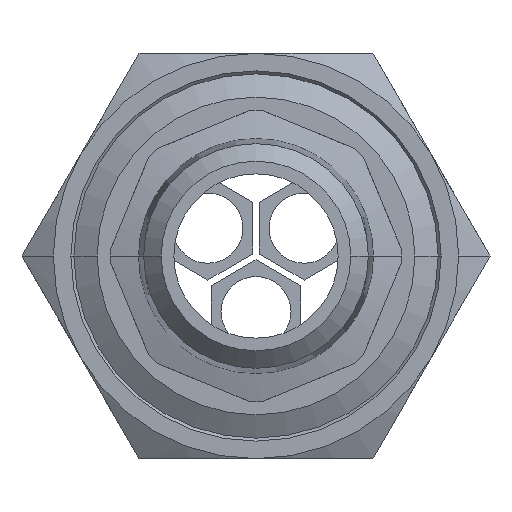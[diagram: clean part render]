
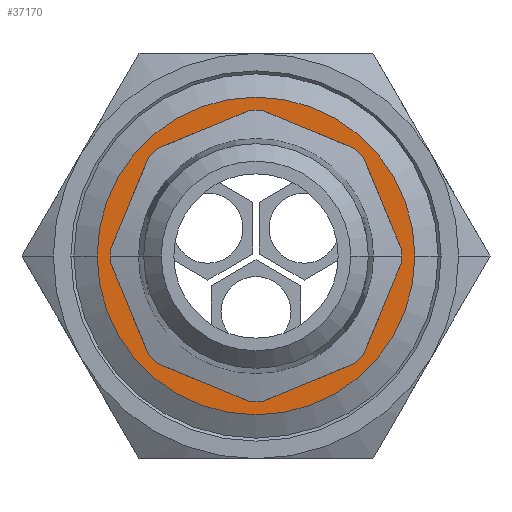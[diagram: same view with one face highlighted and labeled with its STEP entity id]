
A CAD part, front view. The second image highlights one B-rep face of the part: STEP entity #37170.
In plain terms, the highlighted planar face has unit normal (0, -1, 0).
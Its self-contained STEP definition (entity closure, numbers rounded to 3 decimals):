
#35380=CARTESIAN_POINT('',(-333.791,23.435,
0.));
#35390=VERTEX_POINT('',#35380);
#35470=CARTESIAN_POINT('',(-304.791,23.435,0.));
#35480=VERTEX_POINT('',#35470);
#35510=CARTESIAN_POINT('',(-319.291,23.435,0.));
#35520=DIRECTION('',(0.,1.,0.));
#35530=DIRECTION('',(1.,0.,0.));
#35540=AXIS2_PLACEMENT_3D('',#35510,#35520,#35530);
#35550=CIRCLE('',#35540,14.5);
#35560=EDGE_CURVE('',#35390,#35480,#35550,.T.);
#35610=CARTESIAN_POINT('',(-325.388,23.435,
4.782));
#35620=DIRECTION('',(0.,-1.,0.));
#35630=DIRECTION('',(1.,0.,0.));
#35640=AXIS2_PLACEMENT_3D('',#35610,#35620,#35630);
#35650=PLANE('',#35640);
#35660=EDGE_CURVE('',#35480,#35390,#35550,.T.);
#35670=ORIENTED_EDGE('',*,*,#35660,.F.);
#35680=ORIENTED_EDGE('',*,*,#35560,.F.);
#35690=EDGE_LOOP('',(#35680,#35670));
#35700=FACE_OUTER_BOUND('',#35690,.T.);
#35710=CARTESIAN_POINT('',(-319.877,23.435,
13.287));
#35720=DIRECTION('',(-0.924,0.,-0.383));
#35730=VECTOR('',#35720,1.);
#35740=LINE('',#35710,#35730);
#35750=CARTESIAN_POINT('',(-319.877,23.435,
13.287));
#35760=VERTEX_POINT('',#35750);
#35770=CARTESIAN_POINT('',(-328.272,23.435,
9.81));
#35780=VERTEX_POINT('',#35770);
#35790=EDGE_CURVE('',#35760,#35780,#35740,.T.);
#35800=ORIENTED_EDGE('',*,*,#35790,.F.);
#35810=CARTESIAN_POINT('',(-319.291,23.435,
0.));
#35820=DIRECTION('',(0.,-1.,0.));
#35830=DIRECTION('',(1.,0.,0.));
#35840=AXIS2_PLACEMENT_3D('',#35810,#35820,#35830);
#35850=CIRCLE('',#35840,13.3);
#35860=CARTESIAN_POINT('',(-329.101,23.435,
8.981));
#35870=VERTEX_POINT('',#35860);
#35880=EDGE_CURVE('',#35780,#35870,#35850,.T.);
#35890=ORIENTED_EDGE('',*,*,#35880,.F.);
#35900=CARTESIAN_POINT('',(-329.101,23.435,
8.981));
#35910=DIRECTION('',(-0.383,0.,-0.924));
#35920=VECTOR('',#35910,1.);
#35930=LINE('',#35900,#35920);
#35940=CARTESIAN_POINT('',(-332.578,23.435,
0.586));
#35950=VERTEX_POINT('',#35940);
#35960=EDGE_CURVE('',#35870,#35950,#35930,.T.);
#35970=ORIENTED_EDGE('',*,*,#35960,.F.);
#35980=CARTESIAN_POINT('',(-319.291,23.435,
0.));
#35990=DIRECTION('',(0.,-1.,0.));
#36000=DIRECTION('',(1.,0.,0.));
#36010=AXIS2_PLACEMENT_3D('',#35980,#35990,#36000);
#36020=CIRCLE('',#36010,13.3);
#36030=CARTESIAN_POINT('',(-332.591,23.435,
0.));
#36040=VERTEX_POINT('',#36030);
#36050=EDGE_CURVE('',#35950,#36040,#36020,.T.);
#36060=ORIENTED_EDGE('',*,*,#36050,.F.);
#36070=CARTESIAN_POINT('',(-332.578,23.435,
-0.586));
#36080=VERTEX_POINT('',#36070);
#36090=EDGE_CURVE('',#36040,#36080,#36020,.T.);
#36100=ORIENTED_EDGE('',*,*,#36090,.F.);
#36110=CARTESIAN_POINT('',(-332.578,23.435,
-0.586));
#36120=DIRECTION('',(0.383,0.,-0.924));
#36130=VECTOR('',#36120,1.);
#36140=LINE('',#36110,#36130);
#36150=CARTESIAN_POINT('',(-329.101,23.435,
-8.981));
#36160=VERTEX_POINT('',#36150);
#36170=EDGE_CURVE('',#36080,#36160,#36140,.T.);
#36180=ORIENTED_EDGE('',*,*,#36170,.F.);
#36190=CARTESIAN_POINT('',(-319.291,23.435,
0.));
#36200=DIRECTION('',(0.,-1.,0.));
#36210=DIRECTION('',(1.,0.,0.));
#36220=AXIS2_PLACEMENT_3D('',#36190,#36200,#36210);
#36230=CIRCLE('',#36220,13.3);
#36240=CARTESIAN_POINT('',(-328.272,23.435,
-9.81));
#36250=VERTEX_POINT('',#36240);
#36260=EDGE_CURVE('',#36160,#36250,#36230,.T.);
#36270=ORIENTED_EDGE('',*,*,#36260,.F.);
#36280=CARTESIAN_POINT('',(-328.272,23.435,
-9.81));
#36290=DIRECTION('',(0.924,0.,-0.383));
#36300=VECTOR('',#36290,1.);
#36310=LINE('',#36280,#36300);
#36320=CARTESIAN_POINT('',(-319.877,23.435,
-13.287));
#36330=VERTEX_POINT('',#36320);
#36340=EDGE_CURVE('',#36250,#36330,#36310,.T.);
#36350=ORIENTED_EDGE('',*,*,#36340,.F.);
#36360=CARTESIAN_POINT('',(-319.291,23.435,
0.));
#36370=DIRECTION('',(0.,-1.,0.));
#36380=DIRECTION('',(1.,0.,0.));
#36390=AXIS2_PLACEMENT_3D('',#36360,#36370,#36380);
#36400=CIRCLE('',#36390,13.3);
#36410=CARTESIAN_POINT('',(-318.705,23.435,
-13.287));
#36420=VERTEX_POINT('',#36410);
#36430=EDGE_CURVE('',#36330,#36420,#36400,.T.);
#36440=ORIENTED_EDGE('',*,*,#36430,.F.);
#36450=CARTESIAN_POINT('',(-318.705,23.435,
-13.287));
#36460=DIRECTION('',(0.924,0.,0.383));
#36470=VECTOR('',#36460,1.);
#36480=LINE('',#36450,#36470);
#36490=CARTESIAN_POINT('',(-310.31,23.435,
-9.81));
#36500=VERTEX_POINT('',#36490);
#36510=EDGE_CURVE('',#36420,#36500,#36480,.T.);
#36520=ORIENTED_EDGE('',*,*,#36510,.F.);
#36530=CARTESIAN_POINT('',(-319.291,23.435,
0.));
#36540=DIRECTION('',(0.,-1.,0.));
#36550=DIRECTION('',(1.,0.,0.));
#36560=AXIS2_PLACEMENT_3D('',#36530,#36540,#36550);
#36570=CIRCLE('',#36560,13.3);
#36580=CARTESIAN_POINT('',(-309.481,23.435,
-8.981));
#36590=VERTEX_POINT('',#36580);
#36600=EDGE_CURVE('',#36500,#36590,#36570,.T.);
#36610=ORIENTED_EDGE('',*,*,#36600,.F.);
#36620=CARTESIAN_POINT('',(-309.481,23.435,
-8.981));
#36630=DIRECTION('',(0.383,0.,0.924));
#36640=VECTOR('',#36630,1.);
#36650=LINE('',#36620,#36640);
#36660=CARTESIAN_POINT('',(-306.004,23.435,
-0.586));
#36670=VERTEX_POINT('',#36660);
#36680=EDGE_CURVE('',#36590,#36670,#36650,.T.);
#36690=ORIENTED_EDGE('',*,*,#36680,.F.);
#36700=CARTESIAN_POINT('',(-319.291,23.435,
0.));
#36710=DIRECTION('',(0.,-1.,0.));
#36720=DIRECTION('',(1.,0.,0.));
#36730=AXIS2_PLACEMENT_3D('',#36700,#36710,#36720);
#36740=CIRCLE('',#36730,13.3);
#36750=CARTESIAN_POINT('',(-305.991,23.435,
0.));
#36760=VERTEX_POINT('',#36750);
#36770=EDGE_CURVE('',#36670,#36760,#36740,.T.);
#36780=ORIENTED_EDGE('',*,*,#36770,.F.);
#36790=CARTESIAN_POINT('',(-306.004,23.435,
0.586));
#36800=VERTEX_POINT('',#36790);
#36810=EDGE_CURVE('',#36760,#36800,#36740,.T.);
#36820=ORIENTED_EDGE('',*,*,#36810,.F.);
#36830=CARTESIAN_POINT('',(-306.004,23.435,
0.586));
#36840=DIRECTION('',(-0.383,0.,0.924));
#36850=VECTOR('',#36840,1.);
#36860=LINE('',#36830,#36850);
#36870=CARTESIAN_POINT('',(-309.481,23.435,
8.981));
#36880=VERTEX_POINT('',#36870);
#36890=EDGE_CURVE('',#36800,#36880,#36860,.T.);
#36900=ORIENTED_EDGE('',*,*,#36890,.F.);
#36910=CARTESIAN_POINT('',(-319.291,23.435,
0.));
#36920=DIRECTION('',(0.,-1.,0.));
#36930=DIRECTION('',(1.,0.,0.));
#36940=AXIS2_PLACEMENT_3D('',#36910,#36920,#36930);
#36950=CIRCLE('',#36940,13.3);
#36960=CARTESIAN_POINT('',(-310.31,23.435,
9.81));
#36970=VERTEX_POINT('',#36960);
#36980=EDGE_CURVE('',#36880,#36970,#36950,.T.);
#36990=ORIENTED_EDGE('',*,*,#36980,.F.);
#37000=CARTESIAN_POINT('',(-310.31,23.435,
9.81));
#37010=DIRECTION('',(-0.924,0.,0.383));
#37020=VECTOR('',#37010,1.);
#37030=LINE('',#37000,#37020);
#37040=CARTESIAN_POINT('',(-318.705,23.435,
13.287));
#37050=VERTEX_POINT('',#37040);
#37060=EDGE_CURVE('',#36970,#37050,#37030,.T.);
#37070=ORIENTED_EDGE('',*,*,#37060,.F.);
#37080=CARTESIAN_POINT('',(-319.291,23.435,
0.));
#37090=DIRECTION('',(0.,-1.,0.));
#37100=DIRECTION('',(1.,0.,0.));
#37110=AXIS2_PLACEMENT_3D('',#37080,#37090,#37100);
#37120=CIRCLE('',#37110,13.3);
#37130=EDGE_CURVE('',#37050,#35760,#37120,.T.);
#37140=ORIENTED_EDGE('',*,*,#37130,.F.);
#37150=EDGE_LOOP('',(#37140,#37070,#36990,#36900,#36820,#36780,#36690,
#36610,#36520,#36440,#36350,#36270,#36180,#36100,#36060,#35970,#35890,
#35800));
#37160=FACE_BOUND('',#37150,.T.);
#37170=ADVANCED_FACE('',(#35700,#37160),#35650,.T.);
